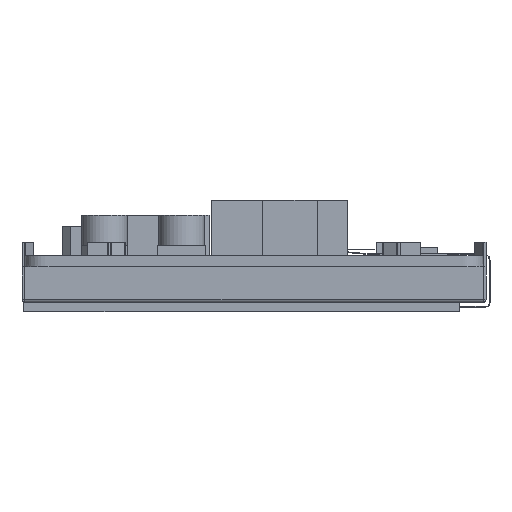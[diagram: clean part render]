
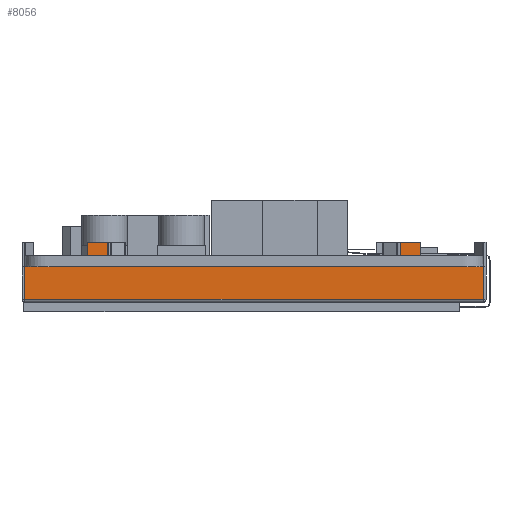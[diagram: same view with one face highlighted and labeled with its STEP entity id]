
A CAD part, left-side view. The second image highlights one B-rep face of the part: STEP entity #8056.
In plain terms, the highlighted planar face has unit normal (-1, 0, 0).
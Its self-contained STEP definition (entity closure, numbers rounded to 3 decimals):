
#3532=PLANE('',#56624);
#5766=FACE_OUTER_BOUND('',#10975,.T.);
#8056=ADVANCED_FACE('',(#5766),#3532,.F.);
#10975=EDGE_LOOP('',(#23146,#23147,#23148,#23149,#23150,#23151,#23152,#23153,
#23154,#23155,#23156,#23157,#23158,#23159,#23160,#23161));
#23146=ORIENTED_EDGE('',*,*,#34717,.T.);
#23147=ORIENTED_EDGE('',*,*,#34718,.F.);
#23148=ORIENTED_EDGE('',*,*,#34719,.F.);
#23149=ORIENTED_EDGE('',*,*,#34720,.T.);
#23150=ORIENTED_EDGE('',*,*,#34721,.T.);
#23151=ORIENTED_EDGE('',*,*,#34722,.T.);
#23152=ORIENTED_EDGE('',*,*,#34715,.T.);
#23153=ORIENTED_EDGE('',*,*,#34723,.F.);
#23154=ORIENTED_EDGE('',*,*,#34724,.T.);
#23155=ORIENTED_EDGE('',*,*,#34725,.F.);
#23156=ORIENTED_EDGE('',*,*,#34726,.F.);
#23157=ORIENTED_EDGE('',*,*,#34727,.T.);
#23158=ORIENTED_EDGE('',*,*,#34709,.T.);
#23159=ORIENTED_EDGE('',*,*,#34728,.F.);
#23160=ORIENTED_EDGE('',*,*,#34729,.F.);
#23161=ORIENTED_EDGE('',*,*,#34730,.T.);
#28329=VERTEX_POINT('',#83352);
#28330=VERTEX_POINT('',#83353);
#28335=VERTEX_POINT('',#83364);
#28336=VERTEX_POINT('',#83366);
#28337=VERTEX_POINT('',#83370);
#28338=VERTEX_POINT('',#83371);
#28339=VERTEX_POINT('',#83373);
#28340=VERTEX_POINT('',#83375);
#28341=VERTEX_POINT('',#83377);
#28342=VERTEX_POINT('',#83379);
#28343=VERTEX_POINT('',#83382);
#28344=VERTEX_POINT('',#83384);
#28345=VERTEX_POINT('',#83386);
#28346=VERTEX_POINT('',#83388);
#28347=VERTEX_POINT('',#83391);
#28348=VERTEX_POINT('',#83393);
#34709=EDGE_CURVE('',#28329,#28330,#44427,.T.);
#34715=EDGE_CURVE('',#28336,#28335,#44433,.T.);
#34717=EDGE_CURVE('',#28337,#28338,#44435,.T.);
#34718=EDGE_CURVE('',#28339,#28338,#44436,.T.);
#34719=EDGE_CURVE('',#28340,#28339,#44437,.T.);
#34720=EDGE_CURVE('',#28340,#28341,#44438,.T.);
#34721=EDGE_CURVE('',#28341,#28342,#44439,.T.);
#34722=EDGE_CURVE('',#28342,#28336,#44440,.T.);
#34723=EDGE_CURVE('',#28343,#28335,#44441,.T.);
#34724=EDGE_CURVE('',#28343,#28344,#44442,.T.);
#34725=EDGE_CURVE('',#28345,#28344,#44443,.T.);
#34726=EDGE_CURVE('',#28346,#28345,#44444,.T.);
#34727=EDGE_CURVE('',#28346,#28329,#44445,.T.);
#34728=EDGE_CURVE('',#28347,#28330,#44446,.T.);
#34729=EDGE_CURVE('',#28348,#28347,#44447,.T.);
#34730=EDGE_CURVE('',#28348,#28337,#44448,.T.);
#44427=LINE('',#83351,#50810);
#44433=LINE('',#83365,#50816);
#44435=LINE('',#83369,#50818);
#44436=LINE('',#83372,#50819);
#44437=LINE('',#83374,#50820);
#44438=LINE('',#83376,#50821);
#44439=LINE('',#83378,#50822);
#44440=LINE('',#83380,#50823);
#44441=LINE('',#83381,#50824);
#44442=LINE('',#83383,#50825);
#44443=LINE('',#83385,#50826);
#44444=LINE('',#83387,#50827);
#44445=LINE('',#83389,#50828);
#44446=LINE('',#83390,#50829);
#44447=LINE('',#83392,#50830);
#44448=LINE('',#83394,#50831);
#50810=VECTOR('',#68428,1.);
#50816=VECTOR('',#68436,1.);
#50818=VECTOR('',#68440,1.);
#50819=VECTOR('',#68441,1.);
#50820=VECTOR('',#68442,1.);
#50821=VECTOR('',#68443,1.);
#50822=VECTOR('',#68444,1.);
#50823=VECTOR('',#68445,1.);
#50824=VECTOR('',#68446,1.);
#50825=VECTOR('',#68447,1.);
#50826=VECTOR('',#68448,1.);
#50827=VECTOR('',#68449,1.);
#50828=VECTOR('',#68450,1.);
#50829=VECTOR('',#68451,1.);
#50830=VECTOR('',#68452,1.);
#50831=VECTOR('',#68453,1.);
#56624=AXIS2_PLACEMENT_3D('',#83395,#68454,#68455);
#68428=DIRECTION('',(0.,1.,0.));
#68436=DIRECTION('',(0.,1.,0.));
#68440=DIRECTION('',(0.,1.,0.));
#68441=DIRECTION('',(0.,0.,-1.));
#68442=DIRECTION('',(0.,-1.,0.));
#68443=DIRECTION('',(0.,0.,-1.));
#68444=DIRECTION('',(0.,1.,0.));
#68445=DIRECTION('',(0.,0.,-1.));
#68446=DIRECTION('',(0.,0.,-1.));
#68447=DIRECTION('',(0.,-1.,0.));
#68448=DIRECTION('',(0.,0.,-1.));
#68449=DIRECTION('',(0.,-1.,0.));
#68450=DIRECTION('',(0.,0.,-1.));
#68451=DIRECTION('',(0.,0.,1.));
#68452=DIRECTION('',(0.,1.,0.));
#68453=DIRECTION('',(0.,0.,1.));
#68454=DIRECTION('',(1.,0.,0.));
#68455=DIRECTION('',(0.,-1.,0.));
#83351=CARTESIAN_POINT('',(196.712,-14.395,-1.6));
#83352=CARTESIAN_POINT('',(196.712,43.765,-1.6));
#83353=CARTESIAN_POINT('',(196.712,53.005,-1.6));
#83364=CARTESIAN_POINT('',(196.712,40.765,-1.6));
#83365=CARTESIAN_POINT('',(196.712,-14.395,-1.6));
#83366=CARTESIAN_POINT('',(196.712,-2.155,-1.6));
#83369=CARTESIAN_POINT('',(196.712,-14.395,-1.6));
#83370=CARTESIAN_POINT('',(196.712,-14.395,-1.6));
#83371=CARTESIAN_POINT('',(196.712,-5.155,-1.6));
#83372=CARTESIAN_POINT('',(196.712,-5.155,0.));
#83373=CARTESIAN_POINT('',(196.712,-5.155,2.));
#83374=CARTESIAN_POINT('',(196.712,-2.19,2.));
#83375=CARTESIAN_POINT('',(196.712,-2.19,2.));
#83376=CARTESIAN_POINT('',(196.712,-2.19,2.));
#83377=CARTESIAN_POINT('',(196.712,-2.19,0.));
#83378=CARTESIAN_POINT('',(196.712,-5.155,0.));
#83379=CARTESIAN_POINT('',(196.712,-2.155,0.));
#83380=CARTESIAN_POINT('',(196.712,-2.155,0.));
#83381=CARTESIAN_POINT('',(196.712,40.765,0.));
#83382=CARTESIAN_POINT('',(196.712,40.765,0.));
#83383=CARTESIAN_POINT('',(196.712,43.765,0.));
#83384=CARTESIAN_POINT('',(196.712,40.754,0.));
#83385=CARTESIAN_POINT('',(196.712,40.754,2.));
#83386=CARTESIAN_POINT('',(196.712,40.754,2.));
#83387=CARTESIAN_POINT('',(196.712,43.765,2.));
#83388=CARTESIAN_POINT('',(196.712,43.765,2.));
#83389=CARTESIAN_POINT('',(196.712,43.765,0.));
#83390=CARTESIAN_POINT('',(196.712,53.005,-6.4));
#83391=CARTESIAN_POINT('',(196.712,53.005,-6.4));
#83392=CARTESIAN_POINT('',(196.712,-14.395,-6.4));
#83393=CARTESIAN_POINT('',(196.712,-14.395,-6.4));
#83394=CARTESIAN_POINT('',(196.712,-14.395,-6.4));
#83395=CARTESIAN_POINT('',(196.712,-14.395,-6.4));
